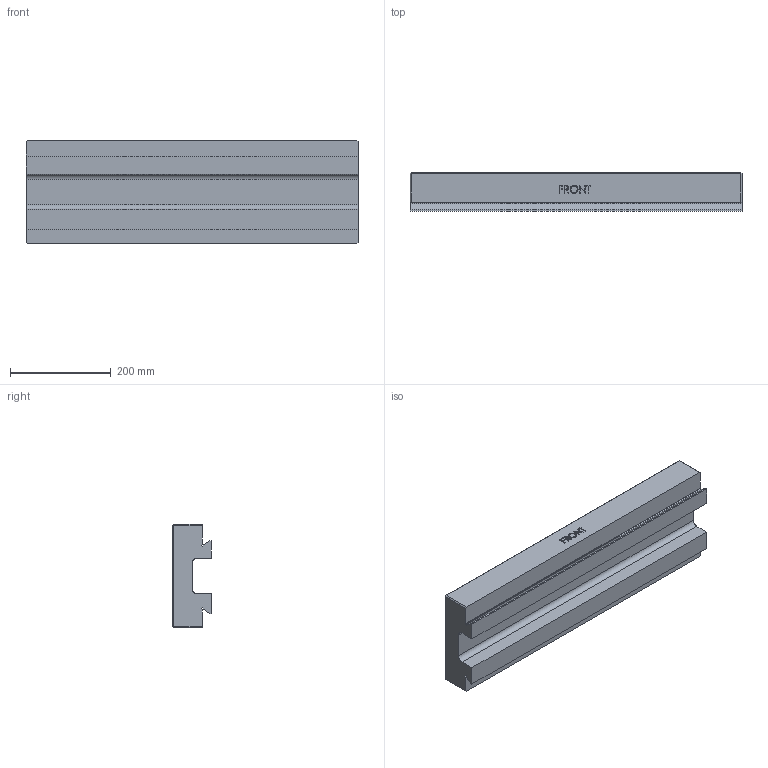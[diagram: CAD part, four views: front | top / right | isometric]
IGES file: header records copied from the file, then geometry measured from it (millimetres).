
Start section: SolidWorks IGES file using analytic representation for surfaces
Global section: file name: R:\Drawings\Files saved as other types\Solid_Models\MODELS FOR PUBLIC\770 TABLE.IGS; native system: SolidWorks 2012; preprocessor: SolidWorks 2012; author: RTooley; date: 131210.093521; units: millimetre
Bounding box: 660 x 77 x 205 mm (x, y, z)
Surface area: 640234.9 mm2 (no closed solid volume)
Topology: 0 solids, 0 shells, 159 faces, 1619 edges, 1619 vertices
Faces by surface type: bspline 144, revolution 15
